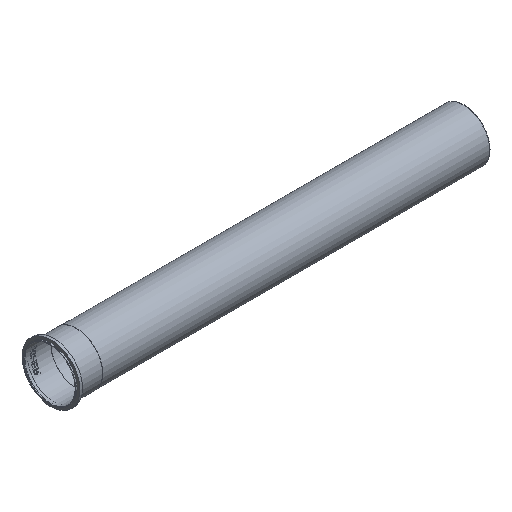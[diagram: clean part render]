
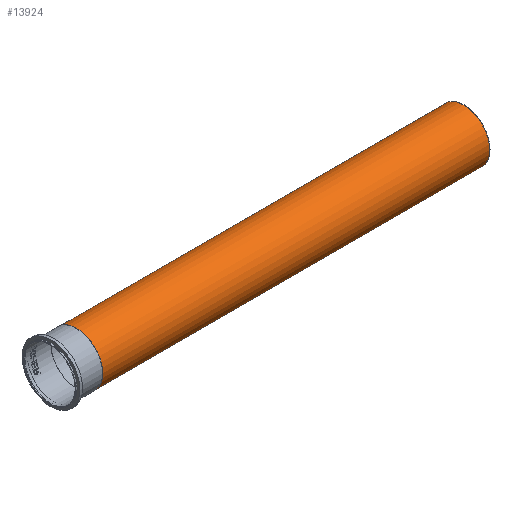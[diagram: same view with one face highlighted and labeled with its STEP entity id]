
A CAD part, isometric view. The second image highlights one B-rep face of the part: STEP entity #13924.
In plain terms, the highlighted cylindrical face has radius 62.484 mm (diameter 124.968 mm), a full revolution.
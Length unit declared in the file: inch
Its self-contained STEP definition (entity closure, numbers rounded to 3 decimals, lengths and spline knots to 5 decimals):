
#13893=CARTESIAN_POINT('',(2.56,2.46,0.0));
#13894=VERTEX_POINT('',#13893);
#13895=CARTESIAN_POINT('',(2.56,0.0,0.0));
#13896=DIRECTION('',(1.0,0.0,0.0));
#13897=DIRECTION('',(0.0,1.0,0.0));
#13898=AXIS2_PLACEMENT_3D('',#13895,#13896,#13897);
#13899=CIRCLE('',#13898,2.46);
#13900=EDGE_CURVE('',#13894,#13894,#13899,.T.);
#13905=CARTESIAN_POINT('',(20.96504,0.0,0.0));
#13906=DIRECTION('',(1.0,0.0,0.0));
#13907=DIRECTION('',(0.0,1.0,0.0));
#13908=AXIS2_PLACEMENT_3D('',#13905,#13906,#13907);
#13909=CYLINDRICAL_SURFACE('',#13908,2.46);
#13910=CARTESIAN_POINT('',(39.37008,2.46,0.0));
#13911=VERTEX_POINT('',#13910);
#13912=CARTESIAN_POINT('',(39.37008,0.0,0.0));
#13913=DIRECTION('',(1.0,0.0,0.0));
#13914=DIRECTION('',(0.0,1.0,0.0));
#13915=AXIS2_PLACEMENT_3D('',#13912,#13913,#13914);
#13916=CIRCLE('',#13915,2.46);
#13917=EDGE_CURVE('',#13911,#13911,#13916,.T.);
#13918=ORIENTED_EDGE('',*,*,#13917,.F.);
#13919=EDGE_LOOP('',(#13918));
#13920=FACE_OUTER_BOUND('',#13919,.T.);
#13921=ORIENTED_EDGE('',*,*,#13900,.T.);
#13922=EDGE_LOOP('',(#13921));
#13923=FACE_BOUND('',#13922,.T.);
#13924=ADVANCED_FACE('',(#13920,#13923),#13909,.T.);
